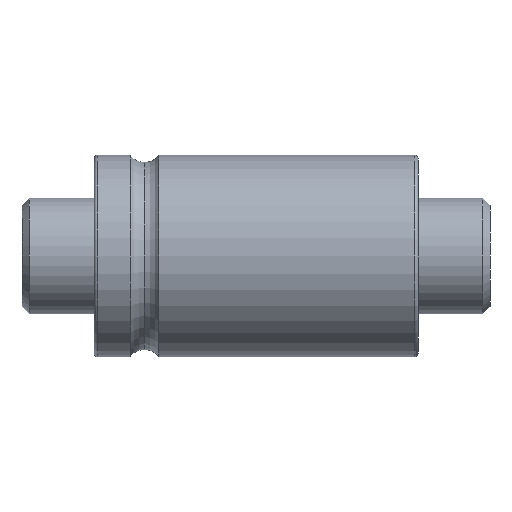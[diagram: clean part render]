
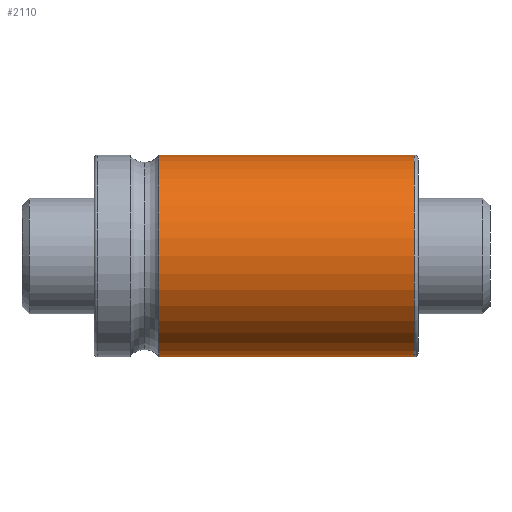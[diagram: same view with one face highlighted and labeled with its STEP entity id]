
A CAD part, front view. The second image highlights one B-rep face of the part: STEP entity #2110.
In plain terms, the highlighted cylindrical face has radius 14 mm (diameter 28 mm), a partial arc.
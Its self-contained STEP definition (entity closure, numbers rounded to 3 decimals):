
#26 = CARTESIAN_POINT ( 'NONE',  ( 44.5, 0., 14. ) ) ;
#124 = VERTEX_POINT ( 'NONE', #731 ) ;
#133 = EDGE_CURVE ( 'NONE', #124, #1517, #525, .T. ) ;
#146 = CARTESIAN_POINT ( 'NONE',  ( 45., 0., 14. ) ) ;
#187 = DIRECTION ( 'NONE',  ( -1., 0., 0. ) ) ;
#195 = AXIS2_PLACEMENT_3D ( 'NONE', #1664, #2158, #237 ) ;
#199 = DIRECTION ( 'NONE',  ( -1., 0., 0. ) ) ;
#237 = DIRECTION ( 'NONE',  ( 0., 0., 1. ) ) ;
#260 = FACE_OUTER_BOUND ( 'NONE', #2424, .T. ) ;
#280 = EDGE_CURVE ( 'NONE', #993, #1517, #3048, .T. ) ;
#451 = AXIS2_PLACEMENT_3D ( 'NONE', #732, #2720, #2444 ) ;
#496 = VECTOR ( 'NONE', #647, 1000. ) ;
#525 = CIRCLE ( 'NONE', #195, 14. ) ;
#647 = DIRECTION ( 'NONE',  ( -1., 0., 0. ) ) ;
#731 = CARTESIAN_POINT ( 'NONE',  ( 9., 0., -14. ) ) ;
#732 = CARTESIAN_POINT ( 'NONE',  ( 44.5, 0., 0. ) ) ;
#783 = ORIENTED_EDGE ( 'NONE', *, *, #1259, .F. ) ;
#993 = VERTEX_POINT ( 'NONE', #26 ) ;
#1051 = AXIS2_PLACEMENT_3D ( 'NONE', #2078, #199, #2834 ) ;
#1197 = LINE ( 'NONE', #2612, #2308 ) ;
#1259 = EDGE_CURVE ( 'NONE', #2182, #124, #1197, .T. ) ;
#1429 = CIRCLE ( 'NONE', #451, 14. ) ;
#1436 = ORIENTED_EDGE ( 'NONE', *, *, #280, .T. ) ;
#1517 = VERTEX_POINT ( 'NONE', #2227 ) ;
#1664 = CARTESIAN_POINT ( 'NONE',  ( 9., 0., 0. ) ) ;
#1677 = CYLINDRICAL_SURFACE ( 'NONE', #1051, 14. ) ;
#1681 = CARTESIAN_POINT ( 'NONE',  ( 44.5, 0., -14. ) ) ;
#1827 = EDGE_CURVE ( 'NONE', #2182, #993, #1429, .T. ) ;
#1920 = ORIENTED_EDGE ( 'NONE', *, *, #133, .F. ) ;
#2078 = CARTESIAN_POINT ( 'NONE',  ( 45., 0., 0. ) ) ;
#2110 = ADVANCED_FACE ( 'NONE', ( #260 ), #1677, .T. ) ;
#2158 = DIRECTION ( 'NONE',  ( -1., 0., 0. ) ) ;
#2182 = VERTEX_POINT ( 'NONE', #1681 ) ;
#2227 = CARTESIAN_POINT ( 'NONE',  ( 9., 0., 14. ) ) ;
#2308 = VECTOR ( 'NONE', #187, 1000. ) ;
#2424 = EDGE_LOOP ( 'NONE', ( #783, #2728, #1436, #1920 ) ) ;
#2444 = DIRECTION ( 'NONE',  ( 0., 0., -1. ) ) ;
#2612 = CARTESIAN_POINT ( 'NONE',  ( 45., 0., -14. ) ) ;
#2720 = DIRECTION ( 'NONE',  ( -1., 0., 0. ) ) ;
#2728 = ORIENTED_EDGE ( 'NONE', *, *, #1827, .T. ) ;
#2834 = DIRECTION ( 'NONE',  ( 0., 0., 1. ) ) ;
#3048 = LINE ( 'NONE', #146, #496 ) ;
